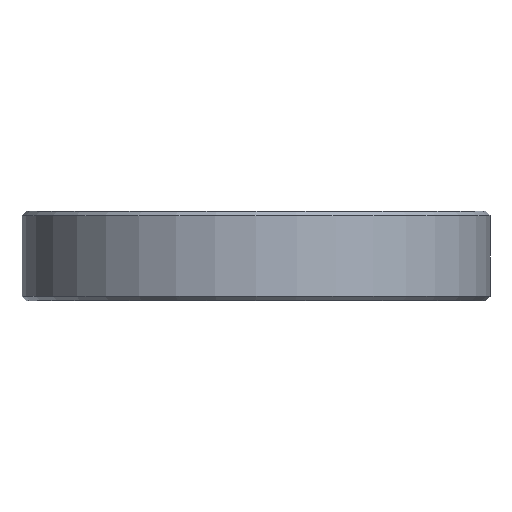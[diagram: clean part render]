
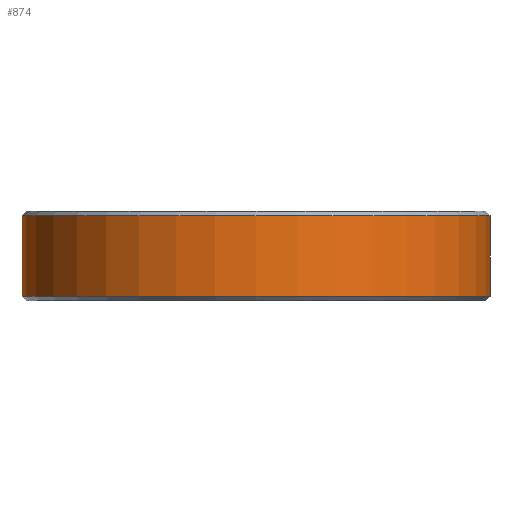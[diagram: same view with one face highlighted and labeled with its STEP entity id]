
A CAD part, front view. The second image highlights one B-rep face of the part: STEP entity #874.
In plain terms, the highlighted cylindrical face has radius 26.022 mm (diameter 52.045 mm), a partial arc.
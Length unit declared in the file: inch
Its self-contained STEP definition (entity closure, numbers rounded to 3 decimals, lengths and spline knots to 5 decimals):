
#109 = CARTESIAN_POINT ( 'NONE',  ( 1.0245, 0., 0.02 ) ) ;
#112 = DIRECTION ( 'NONE',  ( 0., 0., -1. ) ) ;
#113 = VERTEX_POINT ( 'NONE', #986 ) ;
#148 = AXIS2_PLACEMENT_3D ( 'NONE', #2501, #112, #978 ) ;
#169 = EDGE_CURVE ( 'NONE', #1578, #1342, #1781, .T. ) ;
#291 = CYLINDRICAL_SURFACE ( 'NONE', #148, 1.0245 ) ;
#320 = VECTOR ( 'NONE', #650, 39.37008 ) ;
#399 = CARTESIAN_POINT ( 'NONE',  ( -1.0245, 0., 0.02 ) ) ;
#465 = VERTEX_POINT ( 'NONE', #922 ) ;
#492 = EDGE_CURVE ( 'NONE', #113, #1342, #1975, .T. ) ;
#495 = VECTOR ( 'NONE', #764, 39.37008 ) ;
#587 = DIRECTION ( 'NONE',  ( 1., 0., 0. ) ) ;
#650 = DIRECTION ( 'NONE',  ( 0., 0., -1. ) ) ;
#764 = DIRECTION ( 'NONE',  ( 0., 0., -1. ) ) ;
#773 = CARTESIAN_POINT ( 'NONE',  ( -1.0245, 0., 0.3937 ) ) ;
#859 = ORIENTED_EDGE ( 'NONE', *, *, #863, .T. ) ;
#863 = EDGE_CURVE ( 'NONE', #465, #1578, #2666, .T. ) ;
#874 = ADVANCED_FACE ( 'NONE', ( #2524 ), #291, .T. ) ;
#922 = CARTESIAN_POINT ( 'NONE',  ( -1.0245, 0., 0.3737 ) ) ;
#978 = DIRECTION ( 'NONE',  ( -1., 0., 0. ) ) ;
#986 = CARTESIAN_POINT ( 'NONE',  ( 1.0245, 0., 0.3737 ) ) ;
#992 = CARTESIAN_POINT ( 'NONE',  ( 0., 0., 0.02 ) ) ;
#1252 = AXIS2_PLACEMENT_3D ( 'NONE', #992, #1478, #587 ) ;
#1298 = AXIS2_PLACEMENT_3D ( 'NONE', #1524, #2173, #1323 ) ;
#1323 = DIRECTION ( 'NONE',  ( 1., 0., 0. ) ) ;
#1342 = VERTEX_POINT ( 'NONE', #109 ) ;
#1478 = DIRECTION ( 'NONE',  ( 0., 0., 1. ) ) ;
#1524 = CARTESIAN_POINT ( 'NONE',  ( 0., 0., 0.3737 ) ) ;
#1578 = VERTEX_POINT ( 'NONE', #399 ) ;
#1654 = CARTESIAN_POINT ( 'NONE',  ( 1.0245, 0., 0.3937 ) ) ;
#1735 = EDGE_CURVE ( 'NONE', #113, #465, #2150, .T. ) ;
#1743 = EDGE_LOOP ( 'NONE', ( #2174, #2484, #859, #1786 ) ) ;
#1781 = CIRCLE ( 'NONE', #1252, 1.0245 ) ;
#1786 = ORIENTED_EDGE ( 'NONE', *, *, #169, .T. ) ;
#1975 = LINE ( 'NONE', #1654, #320 ) ;
#2150 = CIRCLE ( 'NONE', #1298, 1.0245 ) ;
#2173 = DIRECTION ( 'NONE',  ( 0., 0., -1. ) ) ;
#2174 = ORIENTED_EDGE ( 'NONE', *, *, #492, .F. ) ;
#2484 = ORIENTED_EDGE ( 'NONE', *, *, #1735, .T. ) ;
#2501 = CARTESIAN_POINT ( 'NONE',  ( 0., 0., 0.3937 ) ) ;
#2524 = FACE_OUTER_BOUND ( 'NONE', #1743, .T. ) ;
#2666 = LINE ( 'NONE', #773, #495 ) ;
